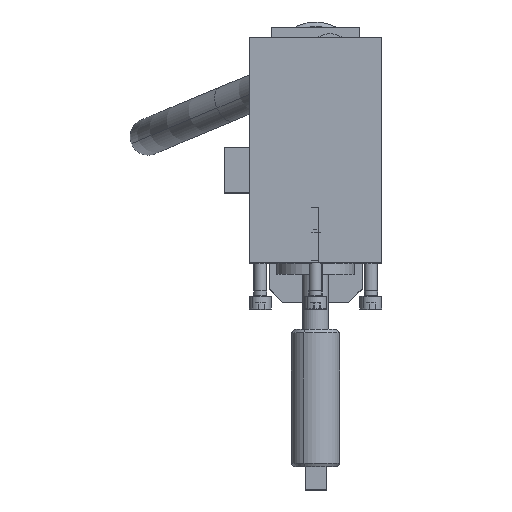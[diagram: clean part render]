
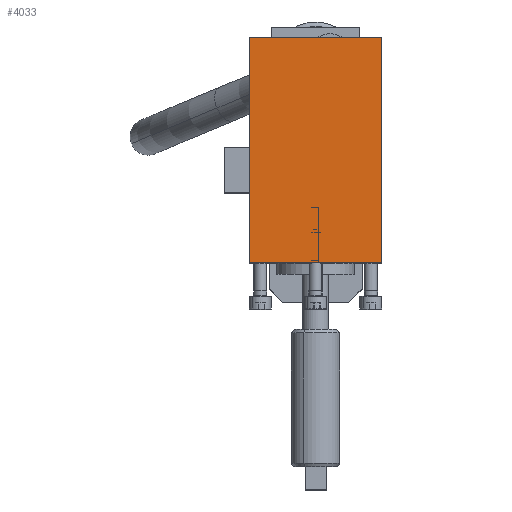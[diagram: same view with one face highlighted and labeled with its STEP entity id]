
A CAD part, top view. The second image highlights one B-rep face of the part: STEP entity #4033.
In plain terms, the highlighted planar face has unit normal (0, 0, 1).
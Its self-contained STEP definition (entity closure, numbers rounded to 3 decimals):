
#3537=CARTESIAN_POINT('Vertex',(30.,-42.,465.1)) ;
#3542=CARTESIAN_POINT('Line Origine',(0.,-42.,465.1)) ;
#3546=CARTESIAN_POINT('Vertex',(-30.,-42.,465.1)) ;
#3975=CARTESIAN_POINT('Line Origine',(-30.,9.,465.1)) ;
#3979=CARTESIAN_POINT('Vertex',(-30.,60.,465.1)) ;
#4010=CARTESIAN_POINT('Axis2P3D Location',(-30.,60.,465.1)) ;
#4015=CARTESIAN_POINT('Line Origine',(30.,9.,465.1)) ;
#4019=CARTESIAN_POINT('Vertex',(30.,60.,465.1)) ;
#4022=CARTESIAN_POINT('Line Origine',(0.,60.,465.1)) ;
#3543=DIRECTION('Vector Direction',(1.,0.,0.)) ;
#3976=DIRECTION('Vector Direction',(0.,-1.,0.)) ;
#4011=DIRECTION('Axis2P3D Direction',(0.,0.,-1.)) ;
#4012=DIRECTION('Axis2P3D XDirection',(1.,0.,0.)) ;
#4016=DIRECTION('Vector Direction',(0.,-1.,0.)) ;
#4023=DIRECTION('Vector Direction',(1.,0.,0.)) ;
#4013=AXIS2_PLACEMENT_3D('Plane Axis2P3D',#4010,#4011,#4012) ;
#4028=ORIENTED_EDGE('',*,*,#3548,.T.) ;
#4029=ORIENTED_EDGE('',*,*,#4021,.F.) ;
#4030=ORIENTED_EDGE('',*,*,#4026,.F.) ;
#4031=ORIENTED_EDGE('',*,*,#3981,.T.) ;
#3544=VECTOR('Line Direction',#3543,1.) ;
#3977=VECTOR('Line Direction',#3976,1.) ;
#4017=VECTOR('Line Direction',#4016,1.) ;
#4024=VECTOR('Line Direction',#4023,1.) ;
#4033=ADVANCED_FACE('',(#4032),#4014,.F.) ;
#3548=EDGE_CURVE('',#3547,#3538,#3545,.T.) ;
#3981=EDGE_CURVE('',#3980,#3547,#3978,.T.) ;
#4021=EDGE_CURVE('',#4020,#3538,#4018,.T.) ;
#4026=EDGE_CURVE('',#3980,#4020,#4025,.T.) ;
#4027=EDGE_LOOP('',(#4028,#4029,#4030,#4031)) ;
#4032=FACE_OUTER_BOUND('',#4027,.T.) ;
#3545=LINE('Line',#3542,#3544) ;
#3978=LINE('Line',#3975,#3977) ;
#4018=LINE('Line',#4015,#4017) ;
#4025=LINE('Line',#4022,#4024) ;
#4014=PLANE('Plane',#4013) ;
#3538=VERTEX_POINT('',#3537) ;
#3547=VERTEX_POINT('',#3546) ;
#3980=VERTEX_POINT('',#3979) ;
#4020=VERTEX_POINT('',#4019) ;
